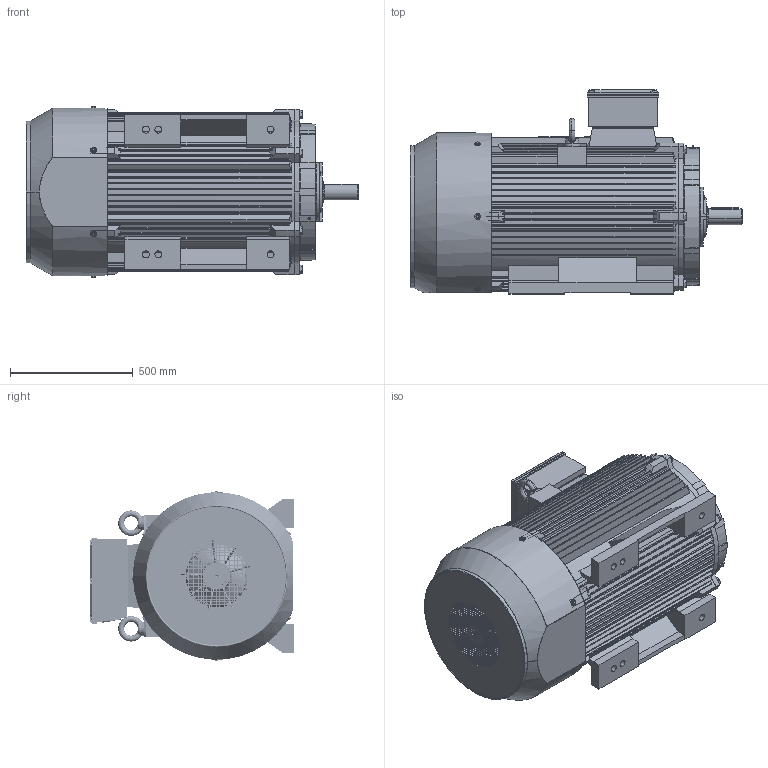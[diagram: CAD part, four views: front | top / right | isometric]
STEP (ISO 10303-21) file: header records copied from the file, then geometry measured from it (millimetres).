
FILE_DESCRIPTION (( 'STEP AP203' ), '1' );
FILE_NAME ('TC 315M-L-2 B3 俋倛芞.STEP', '2013-11-05T02:58:51', ( '123' ), ( 'top' ), 'SwSTEP 2.0', 'SolidWorks 2008', '' );
FILE_SCHEMA (( 'CONFIG_CONTROL_DESIGN' ));
Length unit declared in the file: millimetre
Products named in the file (22): ｷ釁ﾖﾂﾝｶ､ｼﾓｵ貳ｬ_ﾄｬﾈﾏ; TC 315接线盒盖_默认; 扣塞_默认; M10-25_默认; 吊环M30_默认; TE315-2轴承外盖_默认; TE315-2轴承内盖(止口+1)_默认; TE315-2风罩_默认; TC 315M-L-2 B3 俋倛芞; TC 315M-L机壳_默认; TC 315接线盒座_默认; M10-90_默认; TC 315-4风叶_默认; 铜油嘴_默认; M20-70_默认; M63螺塞_默认; TC 315铭牌_默认; TC 315L-2 轴_默认; TE315-2端盖_默认; 油封110-85-12_默认; TX315接线盒座垫_默认; TX315接线盒座、盖垫_默认
Assembly tree (44 placements, depth 2):
  TC 315M-L-2 B3 俋倛芞
    ｷ釁ﾖﾂﾝｶ､ｼﾓｵ貳ｬ_ﾄｬﾈﾏ  x6
    TC 315接线盒座_默认
    M20-70_默认  x6
    M10-90_默认  x4
    铜油嘴_默认  x2
    M10-25_默认  x6
    吊环M30_默认  x2
    TC 315-4风叶_默认
    扣塞_默认
    TX315接线盒座垫_默认
    TC 315铭牌_默认
    M63螺塞_默认  x2
    TE315-2端盖_默认  x2
    TE315-2轴承内盖(止口+1)_默认
    TX315接线盒座、盖垫_默认
    TE315-2轴承外盖_默认  x2
    油封110-85-12_默认
    TC 315M-L机壳_默认
    TE315-2风罩_默认
    TC 315接线盒盖_默认
    TC 315L-2 轴_默认
Bounding box: 1352 x 831 x 694.6 mm (x, y, z)
Volume: 71284828 mm3; surface area: 12176792.2 mm2
Topology: 46 solids, 46 shells, 7819 faces, 22170 edges, 14592 vertices
Faces by surface type: plane 3971, cylinder 3074, cone 445, torus 212, bspline 113, sphere 4
Entity records: 242727 total; most frequent: CARTESIAN_POINT 54935, ORIENTED_EDGE 39500, DIRECTION 37938, EDGE_CURVE 19750, VERTEX_POINT 13060, AXIS2_PLACEMENT_3D 12916, VECTOR 12106, LINE 12106
